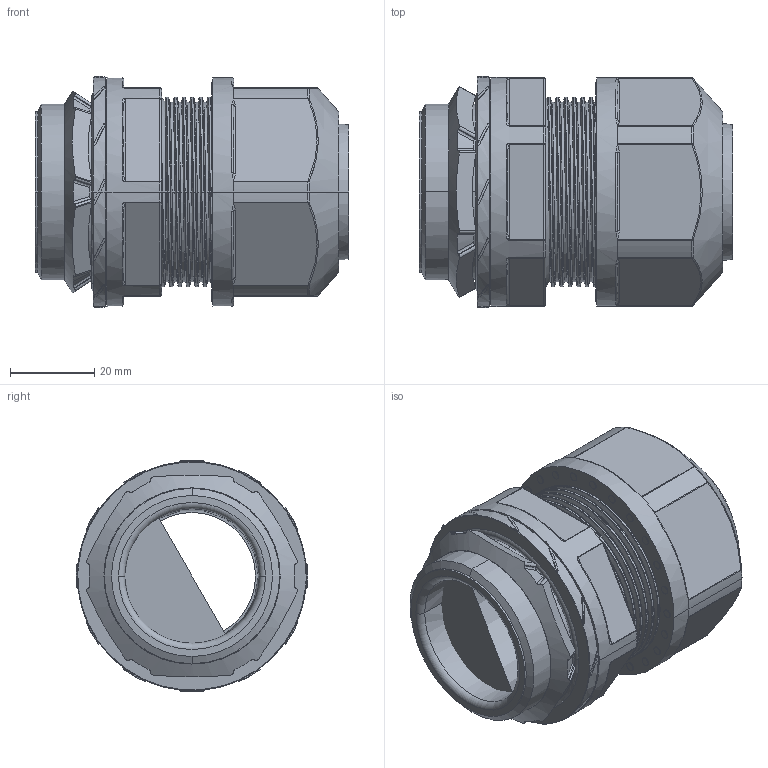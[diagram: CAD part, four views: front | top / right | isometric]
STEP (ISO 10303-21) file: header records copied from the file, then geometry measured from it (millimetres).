
FILE_DESCRIPTION(('CoCreate Modeling STEP Export'),'2;1');
FILE_NAME('OA-W3630_公開データ.stp','2011-07-15T10:38:07',(''),(''),'CoCreate Modeling STEP processor for AP214 (Solid Model)','CoCreate Modeling 17.00A 17-Jun-2010 (C) Parametric Technology GmbH','');
FILE_SCHEMA(('AUTOMOTIVE_DESIGN { 1 0 10303 214 1 1 1 1 }'));
Length unit declared in the file: millimetre
Products named in the file (8): OA-W3630; ゴムブッシュ; ロックナット; 菊座Oﾘﾝｸﾞ
Assembly tree (4 placements, depth 2):
  OA-W3630
    OA-W3630
  ゴムブッシュ
    ゴムブッシュ
  ロックナット
    ロックナット
  菊座Oﾘﾝｸﾞ
    菊座Oﾘﾝｸﾞ
Bounding box: 74.5 x 55.01 x 55 mm (x, y, z)
Volume: 78509 mm3; surface area: 37098.5 mm2
Topology: 3 solids, 4 shells, 535 faces, 1336 edges, 820 vertices
Faces by surface type: cylinder 202, plane 145, bspline 87, torus 66, cone 23, sphere 12
Entity records: 35125 total; most frequent: CARTESIAN_POINT 24360, ORIENTED_EDGE 2655, DIRECTION 1576, EDGE_CURVE 1325, VERTEX_POINT 821, AXIS2_PLACEMENT_3D 641, EDGE_LOOP 571, FACE_OUTER_BOUND 535
